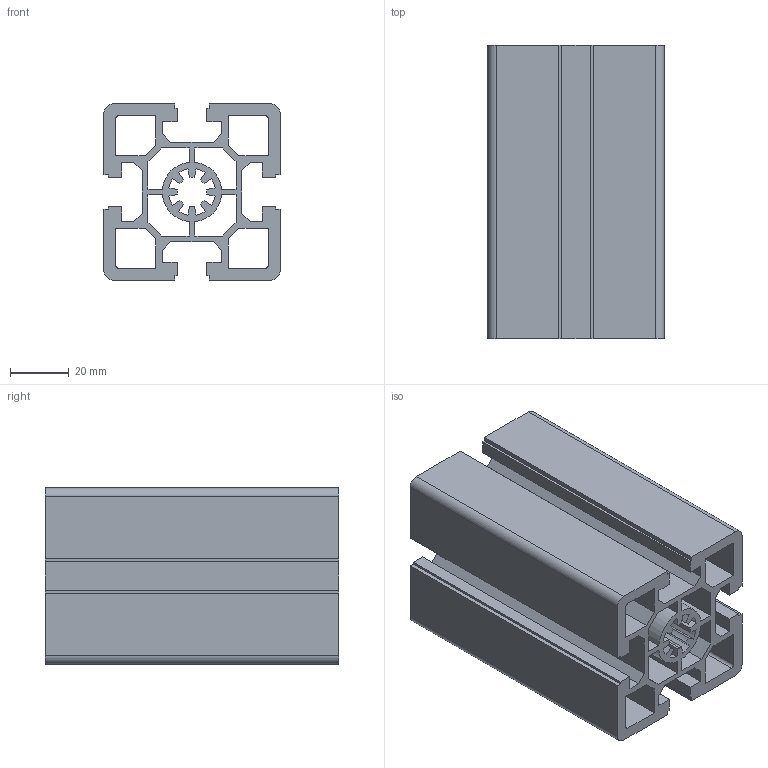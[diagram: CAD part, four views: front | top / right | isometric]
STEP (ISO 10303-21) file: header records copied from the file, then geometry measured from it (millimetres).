
FILE_DESCRIPTION (( 'STEP AP203' ), '1' );
FILE_NAME ('0110P6060S.STEP', '2024-03-04T08:25:37', ( 'Windows-Benutzer' ), ( '' ), 'SwSTEP 2.0', 'SolidWorks 2023', '' );
FILE_SCHEMA (( 'CONFIG_CONTROL_DESIGN' ));
Length unit declared in the file: millimetre
Products named in the file (1): 0110P6060S
Bounding box: 60 x 100 x 60 mm (x, y, z)
Volume: 144575.8 mm3; surface area: 93049 mm2
Topology: 1 solids, 1 shells, 147 faces, 435 edges, 290 vertices
Faces by surface type: plane 118, cylinder 29
Entity records: 4980 total; most frequent: CARTESIAN_POINT 873, ORIENTED_EDGE 870, DIRECTION 789, EDGE_CURVE 435, LINE 377, VECTOR 377, VERTEX_POINT 290, AXIS2_PLACEMENT_3D 206
